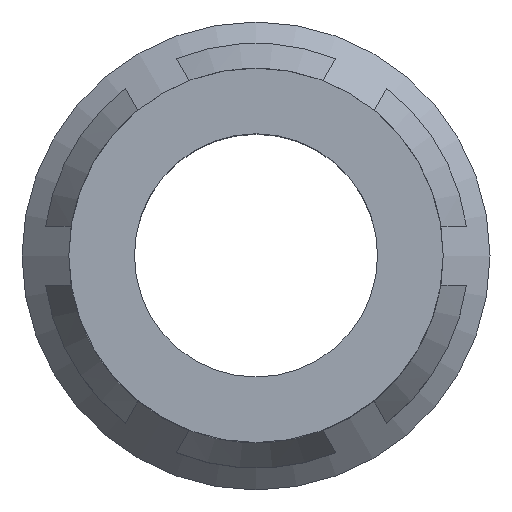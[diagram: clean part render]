
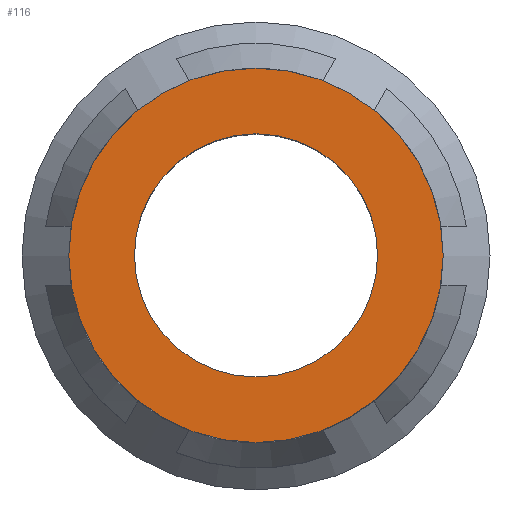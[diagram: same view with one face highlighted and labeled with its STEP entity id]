
A CAD part, top view. The second image highlights one B-rep face of the part: STEP entity #116.
In plain terms, the highlighted planar face has unit normal (0, 0, 1).
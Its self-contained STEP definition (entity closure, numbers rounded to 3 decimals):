
#16 = CIRCLE ( 'NONE', #491, 2.54 ) ;
#116 = ADVANCED_FACE ( 'NONE', ( #705, #986 ), #1408, .F. ) ;
#128 = EDGE_CURVE ( 'NONE', #388, #388, #16, .T. ) ;
#223 = EDGE_LOOP ( 'NONE', ( #539 ) ) ;
#372 = DIRECTION ( 'NONE',  ( -1., 0., 0. ) ) ;
#384 = CARTESIAN_POINT ( 'NONE',  ( 11.503, 0., -13.675 ) ) ;
#388 = VERTEX_POINT ( 'NONE', #1134 ) ;
#475 = DIRECTION ( 'NONE',  ( -1., 0., 0. ) ) ;
#491 = AXIS2_PLACEMENT_3D ( 'NONE', #1210, #507, #372 ) ;
#500 = EDGE_LOOP ( 'NONE', ( #1076 ) ) ;
#507 = DIRECTION ( 'NONE',  ( 0., 0., -1. ) ) ;
#539 = ORIENTED_EDGE ( 'NONE', *, *, #128, .F. ) ;
#705 = FACE_BOUND ( 'NONE', #500, .T. ) ;
#842 = DIRECTION ( 'NONE',  ( 0., 0., -1. ) ) ;
#925 = DIRECTION ( 'NONE',  ( 0., 0., -1. ) ) ;
#932 = DIRECTION ( 'NONE',  ( -1., 0., 0. ) ) ;
#986 = FACE_OUTER_BOUND ( 'NONE', #223, .T. ) ;
#999 = CARTESIAN_POINT ( 'NONE',  ( 7.313, 0., -13.675 ) ) ;
#1076 = ORIENTED_EDGE ( 'NONE', *, *, #1241, .T. ) ;
#1134 = CARTESIAN_POINT ( 'NONE',  ( 6.423, 0., -13.675 ) ) ;
#1137 = AXIS2_PLACEMENT_3D ( 'NONE', #384, #842, #475 ) ;
#1155 = CARTESIAN_POINT ( 'NONE',  ( 8.963, 0., -13.675 ) ) ;
#1168 = CIRCLE ( 'NONE', #1469, 1.65 ) ;
#1210 = CARTESIAN_POINT ( 'NONE',  ( 8.963, 0., -13.675 ) ) ;
#1241 = EDGE_CURVE ( 'NONE', #1532, #1532, #1168, .T. ) ;
#1408 = PLANE ( 'NONE',  #1137 ) ;
#1469 = AXIS2_PLACEMENT_3D ( 'NONE', #1155, #925, #932 ) ;
#1532 = VERTEX_POINT ( 'NONE', #999 ) ;
